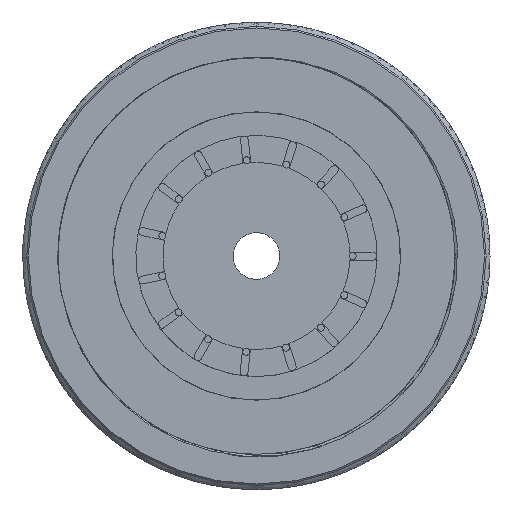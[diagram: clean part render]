
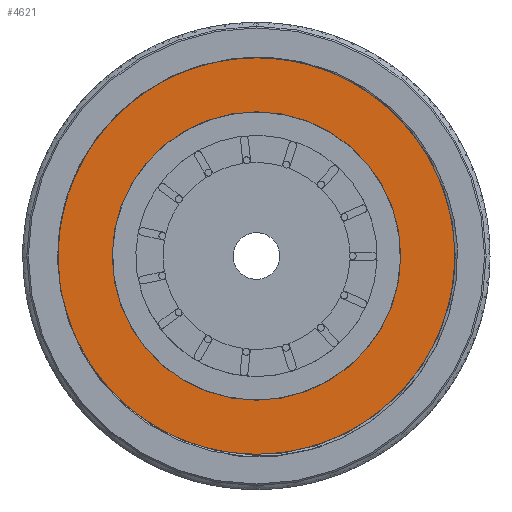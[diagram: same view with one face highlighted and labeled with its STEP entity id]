
A CAD part, front view. The second image highlights one B-rep face of the part: STEP entity #4621.
In plain terms, the highlighted planar face has unit normal (0, -1, 0).
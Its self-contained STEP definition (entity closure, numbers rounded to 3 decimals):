
#121=CARTESIAN_POINT('',(0.,4.5,0.));
#122=DIRECTION('',(0.,1.,0.));
#123=DIRECTION('',(1.,0.,0.));
#124=AXIS2_PLACEMENT_3D('',#121,#122,#123);
#126=CARTESIAN_POINT('',(0.,4.5,0.));
#127=DIRECTION('',(0.,-1.,0.));
#128=DIRECTION('',(1.,0.,0.));
#129=AXIS2_PLACEMENT_3D('',#126,#127,#128);
#131=CARTESIAN_POINT('',(0.,4.5,0.));
#132=DIRECTION('',(0.,1.,0.));
#133=DIRECTION('',(0.,0.,1.));
#134=AXIS2_PLACEMENT_3D('',#131,#132,#133);
#140=CARTESIAN_POINT('',(0.,4.5,0.));
#141=DIRECTION('',(0.,-1.,0.));
#142=DIRECTION('',(0.,0.,1.));
#143=AXIS2_PLACEMENT_3D('',#140,#141,#142);
#4173=CARTESIAN_POINT('',(18.525,4.5,0.));
#4174=CARTESIAN_POINT('',(-18.525,4.5,0.));
#4175=VERTEX_POINT('',#4173);
#4176=VERTEX_POINT('',#4174);
#4218=CARTESIAN_POINT('',(0.,4.5,25.928));
#4220=VERTEX_POINT('',#4218);
#4222=CARTESIAN_POINT('',(0.,4.5,-25.928));
#4224=VERTEX_POINT('',#4222);
#4606=CARTESIAN_POINT('',(0.,4.5,0.));
#4607=DIRECTION('',(0.,-1.,0.));
#4608=DIRECTION('',(-1.,0.,0.));
#4609=AXIS2_PLACEMENT_3D('',#4606,#4607,#4608);
#4610=PLANE('',#4609);
#4612=ORIENTED_EDGE('',*,*,#4611,.T.);
#4614=ORIENTED_EDGE('',*,*,#4613,.F.);
#4615=EDGE_LOOP('',(#4612,#4614));
#4616=FACE_OUTER_BOUND('',#4615,.F.);
#4617=ORIENTED_EDGE('',*,*,#4590,.F.);
#4618=ORIENTED_EDGE('',*,*,#4566,.T.);
#4619=EDGE_LOOP('',(#4617,#4618));
#4620=FACE_BOUND('',#4619,.F.);
#4621=ADVANCED_FACE('',(#4616,#4620),#4610,.T.);
#125=CIRCLE('',#124,18.525);
#130=CIRCLE('',#129,18.525);
#135=CIRCLE('',#134,25.928);
#144=CIRCLE('',#143,25.928);
#4566=EDGE_CURVE('',#4175,#4176,#130,.T.);
#4590=EDGE_CURVE('',#4175,#4176,#125,.T.);
#4611=EDGE_CURVE('',#4220,#4224,#135,.T.);
#4613=EDGE_CURVE('',#4220,#4224,#144,.T.);
